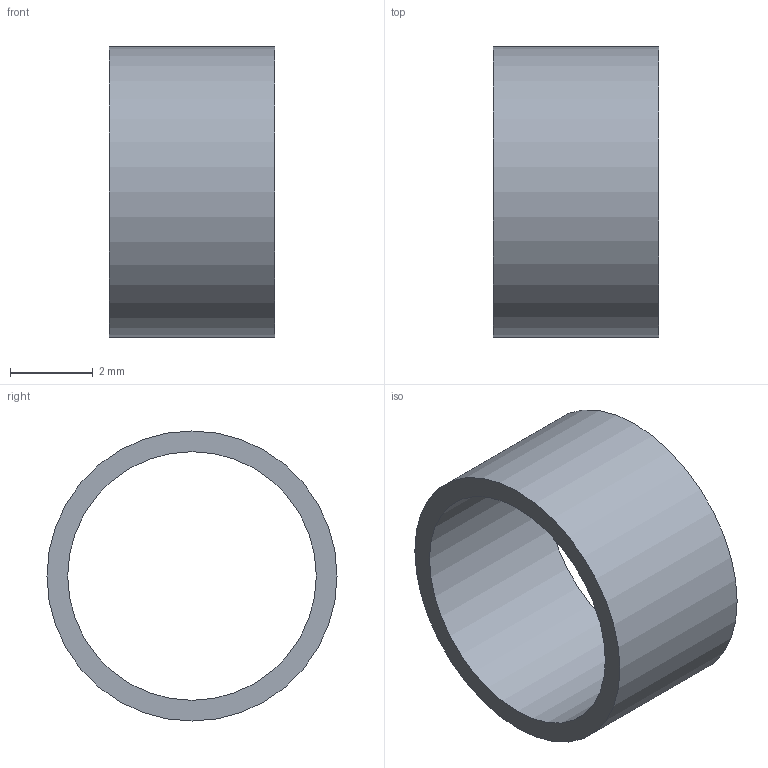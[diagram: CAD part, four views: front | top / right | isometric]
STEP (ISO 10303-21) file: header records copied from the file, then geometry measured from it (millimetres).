
FILE_DESCRIPTION(('Open CASCADE Model'),'2;1');
FILE_NAME('Open CASCADE Shape Model','2026-11-24T19:57:39',('Author'),( 'Open CASCADE'),'Open CASCADE STEP processor 7.8','Open CASCADE 7.8' ,'Unknown');
FILE_SCHEMA(('AUTOMOTIVE_DESIGN { 1 0 10303 214 1 1 1 1 }'));
Length unit declared in the file: millimetre
Products named in the file (1): Open CASCADE STEP translator 7.8 68
Bounding box: 4 x 7 x 7 mm (x, y, z)
Volume: 40.8 mm3; surface area: 183.8 mm2
Topology: 1 solids, 1 shells, 4 faces, 6 edges, 4 vertices
Faces by surface type: cylinder 2, plane 2
Full cylindrical faces by diameter (mm): 6 x1, 7 x1
Entity records: 184 total; most frequent: DIRECTION 30, CARTESIAN_POINT 29, ORIENTED_EDGE 12, PCURVE 12, DEFINITIONAL_REPRESENTATION 12, AXIS2_PLACEMENT_3D 9, CIRCLE 8, LINE 8
